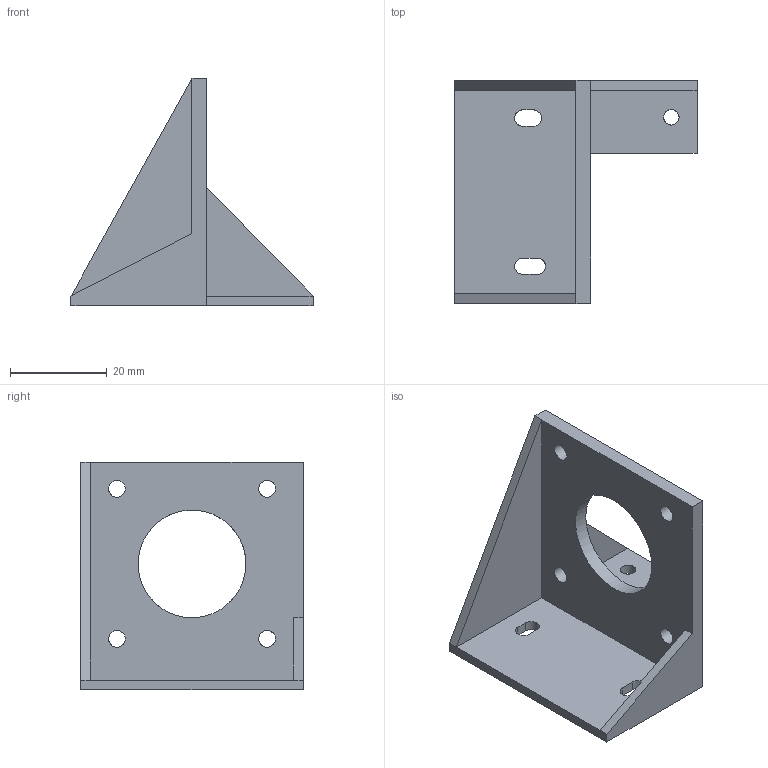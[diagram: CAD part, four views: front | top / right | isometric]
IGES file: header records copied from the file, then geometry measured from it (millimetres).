
Global section: file name: stepper_bracketV2 v5; native system: unknown; preprocessor: unknown; author: unknown; organization: unknown; date: 20200329.203636; units: millimetre
Bounding box: 50 x 46 x 47 mm (x, y, z)
Volume: 10016.7 mm3; surface area: 9372.8 mm2
Topology: 1 solids, 1 shells, 31 faces, 83 edges, 54 vertices
Faces by surface type: bspline 31
